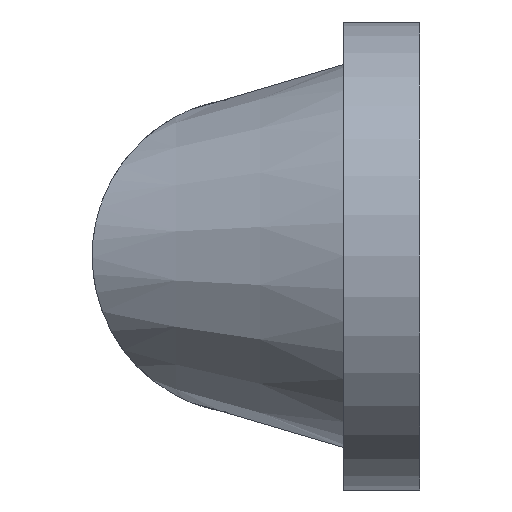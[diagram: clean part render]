
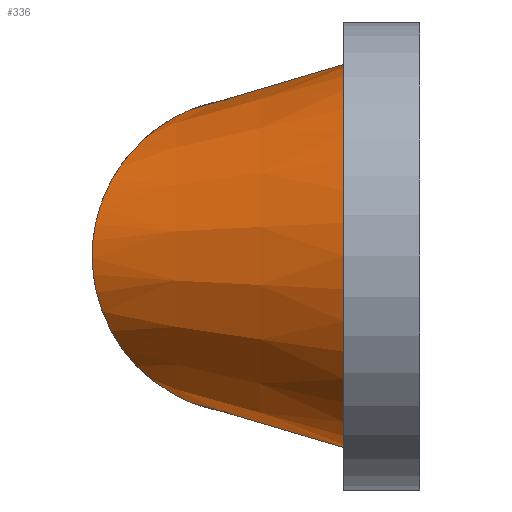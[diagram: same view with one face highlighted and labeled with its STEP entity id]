
A CAD part, left-side view. The second image highlights one B-rep face of the part: STEP entity #336.
In plain terms, the highlighted conical face has half-angle 16.504 degrees and reference radius 10 mm.
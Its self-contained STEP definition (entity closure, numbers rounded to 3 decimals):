
#3 = CARTESIAN_POINT ( 'NONE',  ( -7.306, 24.452, 7.923 ) ) ;
#5 = CARTESIAN_POINT ( 'NONE',  ( -6.394, 23.596, 8.988 ) ) ;
#11 = DIRECTION ( 'NONE',  ( 0., -0.959, -0.284 ) ) ;
#14 = B_SPLINE_CURVE_WITH_KNOTS ( 'NONE', 3,
 ( #513, #34, #500, #364, #80, #408, #133, #452, #189, #499, #191, #237, #30, #325, #587, #256, #107, #214, #566, #568, #520, #302, #431, #343, #258, #521, #216, #477, #164, #434, #108, #387, #53, #476, #388, #59, #111, #220, #167, #478, #261, #525, #436, #346, #3, #5, #301, #162, #386, #410, #192, #544, #138, #238, #283, #501, #588, #455, #20, #535, #271, #487 ),
 .UNSPECIFIED., .F., .F.,
 ( 4, 2, 2, 2, 2, 2, 2, 2, 2, 2, 2, 2, 2, 2, 2, 2, 2, 2, 2, 2, 2, 2, 2, 2, 2, 2, 2, 2, 2, 2, 4 ),
 ( 0., 0.001, 0.001, 0.002, 0.002, 0.004, 0.005, 0.006, 0.007, 0.01, 0.011, 0.012, 0.015, 0.016, 0.017, 0.018, 0.02, 0.021, 0.022, 0.025, 0.026, 0.027, 0.03, 0.032, 0.035, 0.036, 0.037, 0.038, 0.039, 0.039, 0.039 ),
 .UNSPECIFIED. ) ;
#18 = CARTESIAN_POINT ( 'NONE',  ( 0., 60.75, 0. ) ) ;
#20 = CARTESIAN_POINT ( 'NONE',  ( -0.408, 18.744, 12.44 ) ) ;
#28 = DIRECTION ( 'NONE',  ( 0., -1., 0. ) ) ;
#30 = CARTESIAN_POINT ( 'NONE',  ( -3.559, 20.993, -11.234 ) ) ;
#34 = CARTESIAN_POINT ( 'NONE',  ( -0.209, 18.692, -12.462 ) ) ;
#43 = CARTESIAN_POINT ( 'NONE',  ( 0., 15.934, -13.279 ) ) ;
#52 = CONICAL_SURFACE ( 'NONE', #412, 10., 0.288 ) ;
#53 = CARTESIAN_POINT ( 'NONE',  ( -10., 27., -0.394 ) ) ;
#54 = VERTEX_POINT ( 'NONE', #275 ) ;
#58 = ORIENTED_EDGE ( 'NONE', *, *, #318, .T. ) ;
#59 = CARTESIAN_POINT ( 'NONE',  ( -9.902, 26.907, 1.632 ) ) ;
#63 = EDGE_CURVE ( 'NONE', #227, #54, #539, .T. ) ;
#80 = CARTESIAN_POINT ( 'NONE',  ( -0.973, 18.973, -12.341 ) ) ;
#84 = FACE_OUTER_BOUND ( 'NONE', #284, .T. ) ;
#91 = VERTEX_POINT ( 'NONE', #174 ) ;
#93 = CARTESIAN_POINT ( 'NONE',  ( 0., 5.5, 0. ) ) ;
#107 = CARTESIAN_POINT ( 'NONE',  ( -5.169, 22.457, -10.105 ) ) ;
#108 = CARTESIAN_POINT ( 'NONE',  ( -9.904, 26.909, -1.621 ) ) ;
#111 = CARTESIAN_POINT ( 'NONE',  ( -9.844, 26.852, 2.036 ) ) ;
#121 = CARTESIAN_POINT ( 'NONE',  ( 0., 27., 0. ) ) ;
#133 = CARTESIAN_POINT ( 'NONE',  ( -1.481, 19.29, -12.196 ) ) ;
#135 = ORIENTED_EDGE ( 'NONE', *, *, #63, .T. ) ;
#138 = CARTESIAN_POINT ( 'NONE',  ( -2.41, 19.999, 11.836 ) ) ;
#140 = CARTESIAN_POINT ( 'NONE',  ( 0., 60.75, 0. ) ) ;
#144 = DIRECTION ( 'NONE',  ( 0., 0., -1. ) ) ;
#149 = DIRECTION ( 'NONE',  ( 0., 0., 1. ) ) ;
#161 = ORIENTED_EDGE ( 'NONE', *, *, #404, .T. ) ;
#162 = CARTESIAN_POINT ( 'NONE',  ( -4.907, 22.215, 10.33 ) ) ;
#164 = CARTESIAN_POINT ( 'NONE',  ( -9.695, 26.711, -2.808 ) ) ;
#167 = CARTESIAN_POINT ( 'NONE',  ( -9.39, 26.422, 3.984 ) ) ;
#174 = CARTESIAN_POINT ( 'NONE',  ( 0., 5.5, -16.37 ) ) ;
#189 = CARTESIAN_POINT ( 'NONE',  ( -1.957, 19.641, -12.023 ) ) ;
#191 = CARTESIAN_POINT ( 'NONE',  ( -2.707, 20.25, -11.695 ) ) ;
#192 = CARTESIAN_POINT ( 'NONE',  ( -3.281, 20.746, 11.394 ) ) ;
#213 = VECTOR ( 'NONE', #11, 1000. ) ;
#214 = CARTESIAN_POINT ( 'NONE',  ( -5.928, 23.161, -9.451 ) ) ;
#216 = CARTESIAN_POINT ( 'NONE',  ( -9.382, 26.414, -3.953 ) ) ;
#220 = CARTESIAN_POINT ( 'NONE',  ( -9.613, 26.633, 3.229 ) ) ;
#227 = VERTEX_POINT ( 'NONE', #545 ) ;
#230 = EDGE_CURVE ( 'NONE', #586, #433, #365, .T. ) ;
#237 = CARTESIAN_POINT ( 'NONE',  ( -3.28, 20.745, -11.395 ) ) ;
#238 = CARTESIAN_POINT ( 'NONE',  ( -1.799, 19.516, 12.089 ) ) ;
#244 = CARTESIAN_POINT ( 'NONE',  ( 0., 5.5, 16.37 ) ) ;
#256 = CARTESIAN_POINT ( 'NONE',  ( -4.909, 22.217, -10.313 ) ) ;
#258 = CARTESIAN_POINT ( 'NONE',  ( -8.832, 25.893, -5.409 ) ) ;
#261 = CARTESIAN_POINT ( 'NONE',  ( -8.809, 25.871, 5.417 ) ) ;
#271 = CARTESIAN_POINT ( 'NONE',  ( -0.104, 18.692, 12.462 ) ) ;
#275 = CARTESIAN_POINT ( 'NONE',  ( 0., 18.692, 12.462 ) ) ;
#283 = CARTESIAN_POINT ( 'NONE',  ( -1.483, 19.278, 12.203 ) ) ;
#284 = EDGE_LOOP ( 'NONE', ( #310, #519, #58, #161, #305, #135 ) ) ;
#290 = EDGE_CURVE ( 'NONE', #586, #54, #14, .T. ) ;
#301 = CARTESIAN_POINT ( 'NONE',  ( -5.912, 23.146, 9.466 ) ) ;
#302 = CARTESIAN_POINT ( 'NONE',  ( -7.725, 24.848, -7.322 ) ) ;
#303 = VECTOR ( 'NONE', #534, 1000. ) ;
#305 = ORIENTED_EDGE ( 'NONE', *, *, #494, .T. ) ;
#310 = ORIENTED_EDGE ( 'NONE', *, *, #290, .F. ) ;
#318 = EDGE_CURVE ( 'NONE', #433, #91, #327, .T. ) ;
#325 = CARTESIAN_POINT ( 'NONE',  ( -4.109, 21.486, -10.889 ) ) ;
#327 = LINE ( 'NONE', #429, #213 ) ;
#336 = ADVANCED_FACE ( 'NONE', ( #84 ), #52, .T. ) ;
#343 = CARTESIAN_POINT ( 'NONE',  ( -8.497, 25.576, -6.078 ) ) ;
#346 = CARTESIAN_POINT ( 'NONE',  ( -7.725, 24.847, 7.349 ) ) ;
#364 = CARTESIAN_POINT ( 'NONE',  ( -0.795, 18.88, -12.382 ) ) ;
#365 = LINE ( 'NONE', #140, #473 ) ;
#375 = VERTEX_POINT ( 'NONE', #244 ) ;
#386 = CARTESIAN_POINT ( 'NONE',  ( -4.383, 21.732, 10.716 ) ) ;
#387 = CARTESIAN_POINT ( 'NONE',  ( -9.981, 26.982, -0.805 ) ) ;
#388 = CARTESIAN_POINT ( 'NONE',  ( -9.98, 26.981, 0.825 ) ) ;
#400 = CARTESIAN_POINT ( 'NONE',  ( 0., 18.692, -12.462 ) ) ;
#404 = EDGE_CURVE ( 'NONE', #91, #375, #495, .T. ) ;
#408 = CARTESIAN_POINT ( 'NONE',  ( -1.316, 19.178, -12.248 ) ) ;
#410 = CARTESIAN_POINT ( 'NONE',  ( -3.561, 20.994, 11.233 ) ) ;
#412 = AXIS2_PLACEMENT_3D ( 'NONE', #121, #28, #144 ) ;
#421 = DIRECTION ( 'NONE',  ( 0., 1., 0. ) ) ;
#429 = CARTESIAN_POINT ( 'NONE',  ( 0., 60.75, 0. ) ) ;
#431 = CARTESIAN_POINT ( 'NONE',  ( -7.927, 25.038, -7.018 ) ) ;
#433 = VERTEX_POINT ( 'NONE', #43 ) ;
#434 = CARTESIAN_POINT ( 'NONE',  ( -9.846, 26.854, -2.021 ) ) ;
#436 = CARTESIAN_POINT ( 'NONE',  ( -8.294, 25.384, 6.415 ) ) ;
#452 = CARTESIAN_POINT ( 'NONE',  ( -1.802, 19.521, -12.083 ) ) ;
#455 = CARTESIAN_POINT ( 'NONE',  ( -0.505, 18.773, 12.428 ) ) ;
#473 = VECTOR ( 'NONE', #592, 1000. ) ;
#476 = CARTESIAN_POINT ( 'NONE',  ( -10., 27., 0.42 ) ) ;
#477 = CARTESIAN_POINT ( 'NONE',  ( -9.602, 26.623, -3.194 ) ) ;
#478 = CARTESIAN_POINT ( 'NONE',  ( -8.966, 26.02, 5.065 ) ) ;
#487 = CARTESIAN_POINT ( 'NONE',  ( 0., 18.692, 12.462 ) ) ;
#494 = EDGE_CURVE ( 'NONE', #375, #227, #584, .T. ) ;
#495 = CIRCLE ( 'NONE', #591, 16.37 ) ;
#499 = CARTESIAN_POINT ( 'NONE',  ( -2.414, 20.003, -11.834 ) ) ;
#500 = CARTESIAN_POINT ( 'NONE',  ( -0.411, 18.737, -12.443 ) ) ;
#501 = CARTESIAN_POINT ( 'NONE',  ( -0.971, 18.972, 12.342 ) ) ;
#513 = CARTESIAN_POINT ( 'NONE',  ( 0., 18.692, -12.462 ) ) ;
#519 = ORIENTED_EDGE ( 'NONE', *, *, #230, .T. ) ;
#520 = CARTESIAN_POINT ( 'NONE',  ( -7.304, 24.451, -7.903 ) ) ;
#521 = CARTESIAN_POINT ( 'NONE',  ( -9.255, 26.293, -4.328 ) ) ;
#525 = CARTESIAN_POINT ( 'NONE',  ( -8.473, 25.553, 6.091 ) ) ;
#534 = DIRECTION ( 'NONE',  ( 0., 0.959, -0.284 ) ) ;
#535 = CARTESIAN_POINT ( 'NONE',  ( -0.208, 18.703, 12.457 ) ) ;
#539 = LINE ( 'NONE', #18, #303 ) ;
#544 = CARTESIAN_POINT ( 'NONE',  ( -2.704, 20.248, 11.696 ) ) ;
#545 = CARTESIAN_POINT ( 'NONE',  ( 0., 15.934, 13.279 ) ) ;
#562 = DIRECTION ( 'NONE',  ( 0., 0.959, -0.284 ) ) ;
#566 = CARTESIAN_POINT ( 'NONE',  ( -6.408, 23.61, -8.972 ) ) ;
#568 = CARTESIAN_POINT ( 'NONE',  ( -7.085, 24.245, -8.179 ) ) ;
#571 = VECTOR ( 'NONE', #562, 1000. ) ;
#584 = LINE ( 'NONE', #604, #571 ) ;
#586 = VERTEX_POINT ( 'NONE', #400 ) ;
#587 = CARTESIAN_POINT ( 'NONE',  ( -4.378, 21.731, -10.705 ) ) ;
#588 = CARTESIAN_POINT ( 'NONE',  ( -0.791, 18.878, 12.383 ) ) ;
#591 = AXIS2_PLACEMENT_3D ( 'NONE', #93, #421, #149 ) ;
#592 = DIRECTION ( 'NONE',  ( 0., -0.959, -0.284 ) ) ;
#604 = CARTESIAN_POINT ( 'NONE',  ( 0., 60.75, 0. ) ) ;
